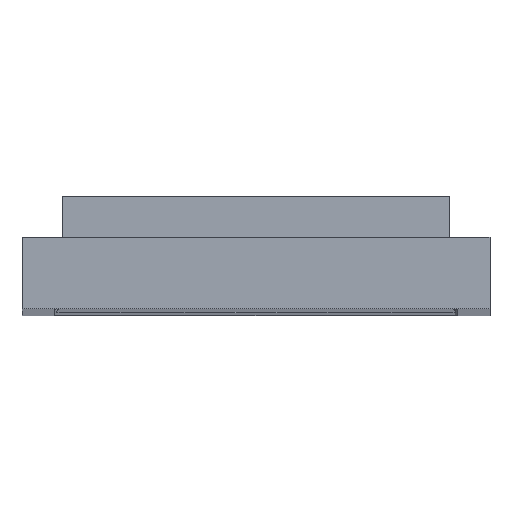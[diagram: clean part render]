
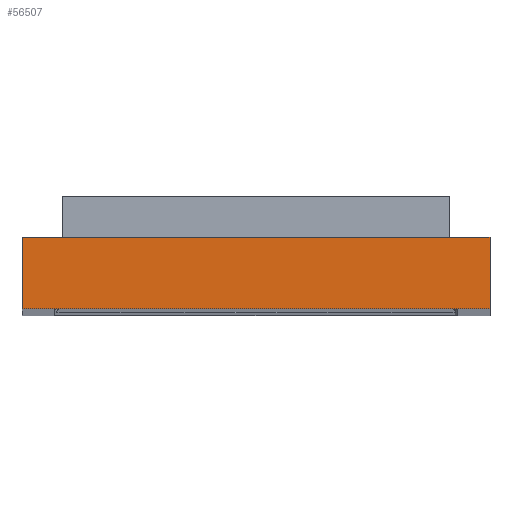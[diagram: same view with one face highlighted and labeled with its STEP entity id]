
A CAD part, top view. The second image highlights one B-rep face of the part: STEP entity #56507.
In plain terms, the highlighted planar face has unit normal (0, 0, 1).
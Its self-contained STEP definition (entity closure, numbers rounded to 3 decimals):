
#7210=PLANE('',#60382);
#7917=FACE_OUTER_BOUND('',#11560,.T.);
#11560=EDGE_LOOP('',(#38690,#38691,#38692,#38693));
#15313=LINE('',#82815,#18604);
#15356=LINE('',#82910,#18647);
#15369=LINE('',#82937,#18660);
#15373=LINE('',#82944,#18664);
#18604=VECTOR('',#66825,10.);
#18647=VECTOR('',#66910,10.);
#18660=VECTOR('',#66933,10.);
#18664=VECTOR('',#66941,10.);
#25043=VERTEX_POINT('',#82812);
#25044=VERTEX_POINT('',#82814);
#25075=VERTEX_POINT('',#82908);
#25084=VERTEX_POINT('',#82936);
#29933=EDGE_CURVE('',#25043,#25044,#15313,.T.);
#29986=EDGE_CURVE('',#25043,#25075,#15356,.T.);
#29999=EDGE_CURVE('',#25075,#25084,#15369,.T.);
#30003=EDGE_CURVE('',#25044,#25084,#15373,.T.);
#38690=ORIENTED_EDGE('',*,*,#29999,.T.);
#38691=ORIENTED_EDGE('',*,*,#30003,.F.);
#38692=ORIENTED_EDGE('',*,*,#29933,.F.);
#38693=ORIENTED_EDGE('',*,*,#29986,.T.);
#56507=ADVANCED_FACE('',(#7917),#7210,.T.);
#60382=AXIS2_PLACEMENT_3D('',#83065,#67101,#67102);
#66825=DIRECTION('',(-1.,0.,0.));
#66910=DIRECTION('',(0.,1.,0.));
#66933=DIRECTION('',(-1.,0.,0.));
#66941=DIRECTION('',(0.,1.,0.));
#67101=DIRECTION('center_axis',(0.,0.,1.));
#67102=DIRECTION('ref_axis',(1.,0.,0.));
#82812=CARTESIAN_POINT('',(145.7,-1.25,0.));
#82814=CARTESIAN_POINT('',(0.,-1.25,0.));
#82815=CARTESIAN_POINT('',(109.275,-1.25,0.));
#82908=CARTESIAN_POINT('',(145.7,21.05,0.));
#82910=CARTESIAN_POINT('',(145.7,-1.251,0.));
#82936=CARTESIAN_POINT('',(0.,21.05,0.));
#82937=CARTESIAN_POINT('',(109.275,21.05,0.));
#82944=CARTESIAN_POINT('',(0.,-1.251,0.));
#83065=CARTESIAN_POINT('Origin',(145.7,-1.251,0.));
